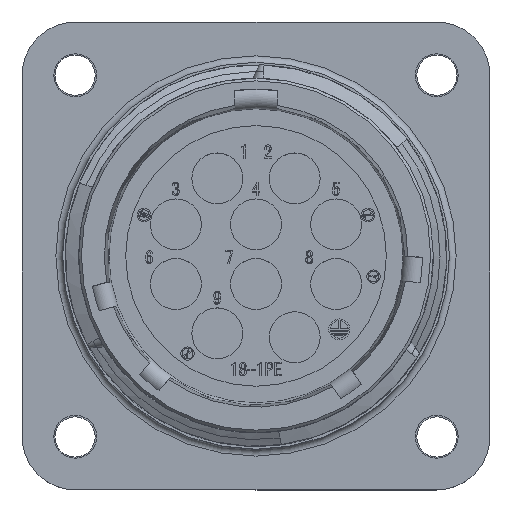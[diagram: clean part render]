
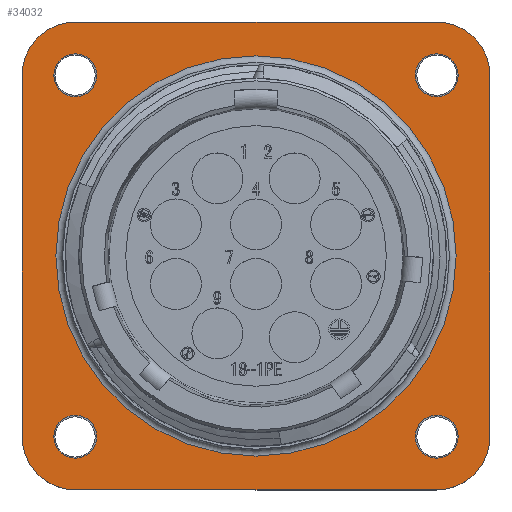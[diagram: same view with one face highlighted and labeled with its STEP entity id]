
A CAD part, top view. The second image highlights one B-rep face of the part: STEP entity #34032.
In plain terms, the highlighted planar face has unit normal (0, 0, 1).
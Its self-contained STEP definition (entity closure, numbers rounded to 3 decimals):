
#567 = VECTOR ( 'NONE', #8235, 1000. ) ;
#592 = DIRECTION ( 'NONE',  ( 0., 0., -1. ) ) ;
#884 = EDGE_CURVE ( 'NONE', #29606, #39198, #38376, .T. ) ;
#904 = CIRCLE ( 'NONE', #35562, 4. ) ;
#2448 = EDGE_CURVE ( 'NONE', #39198, #24885, #32546, .T. ) ;
#2581 = DIRECTION ( 'NONE',  ( 1., 0., 0. ) ) ;
#2787 = FACE_BOUND ( 'NONE', #35160, .T. ) ;
#2815 = CIRCLE ( 'NONE', #10098, 4. ) ;
#2872 = DIRECTION ( 'NONE',  ( 1., 0., 0. ) ) ;
#3343 = DIRECTION ( 'NONE',  ( 0., 0., -1. ) ) ;
#3821 = EDGE_CURVE ( 'NONE', #26107, #26107, #12783, .T. ) ;
#3840 = ORIENTED_EDGE ( 'NONE', *, *, #33449, .F. ) ;
#4151 = ORIENTED_EDGE ( 'NONE', *, *, #18216, .T. ) ;
#4255 = FACE_BOUND ( 'NONE', #9650, .T. ) ;
#4853 = CARTESIAN_POINT ( 'NONE',  ( 0., 0., -19.9 ) ) ;
#5148 = ORIENTED_EDGE ( 'NONE', *, *, #3821, .T. ) ;
#5366 = CARTESIAN_POINT ( 'NONE',  ( -14.935, 0., -19.9 ) ) ;
#5723 = DIRECTION ( 'NONE',  ( -1., 0., 0. ) ) ;
#5938 = DIRECTION ( 'NONE',  ( 0., 0., -1. ) ) ;
#6218 = ORIENTED_EDGE ( 'NONE', *, *, #2448, .F. ) ;
#6529 = AXIS2_PLACEMENT_3D ( 'NONE', #29470, #29891, #14156 ) ;
#6592 = CARTESIAN_POINT ( 'NONE',  ( -13.46, 17.46, -19.9 ) ) ;
#6643 = FACE_BOUND ( 'NONE', #10382, .T. ) ;
#7272 = DIRECTION ( 'NONE',  ( -1., 0., 0. ) ) ;
#7343 = AXIS2_PLACEMENT_3D ( 'NONE', #36872, #5938, #27465 ) ;
#7519 = EDGE_CURVE ( 'NONE', #26334, #24393, #27141, .T. ) ;
#7660 = VERTEX_POINT ( 'NONE', #28254 ) ;
#7911 = CARTESIAN_POINT ( 'NONE',  ( -17.46, 13.46, -19.9 ) ) ;
#8235 = DIRECTION ( 'NONE',  ( 0., -1., 0. ) ) ;
#8299 = DIRECTION ( 'NONE',  ( 0., 0., -1. ) ) ;
#8631 = AXIS2_PLACEMENT_3D ( 'NONE', #22879, #38591, #26077 ) ;
#9038 = VERTEX_POINT ( 'NONE', #23919 ) ;
#9403 = CARTESIAN_POINT ( 'NONE',  ( 13.46, 13.46, -19.9 ) ) ;
#9617 = DIRECTION ( 'NONE',  ( 1., 0., 0. ) ) ;
#9650 = EDGE_LOOP ( 'NONE', ( #4151 ) ) ;
#9746 = CARTESIAN_POINT ( 'NONE',  ( 13.485, -13.485, -19.9 ) ) ;
#9801 = CARTESIAN_POINT ( 'NONE',  ( -13.46, -13.46, -19.9 ) ) ;
#10067 = ORIENTED_EDGE ( 'NONE', *, *, #884, .F. ) ;
#10098 = AXIS2_PLACEMENT_3D ( 'NONE', #9801, #28077, #31163 ) ;
#10162 = AXIS2_PLACEMENT_3D ( 'NONE', #4853, #38597, #7272 ) ;
#10382 = EDGE_LOOP ( 'NONE', ( #36135 ) ) ;
#10893 = CARTESIAN_POINT ( 'NONE',  ( -15.085, -13.485, -19.9 ) ) ;
#11336 = VECTOR ( 'NONE', #29395, 1000. ) ;
#11757 = CARTESIAN_POINT ( 'NONE',  ( 13.46, 17.46, -19.9 ) ) ;
#12381 = DIRECTION ( 'NONE',  ( 0., 0., -1. ) ) ;
#12783 = CIRCLE ( 'NONE', #7343, 1.6 ) ;
#12924 = CIRCLE ( 'NONE', #15752, 1.6 ) ;
#13363 = CARTESIAN_POINT ( 'NONE',  ( -17.46, -13.46, -19.9 ) ) ;
#13405 = CIRCLE ( 'NONE', #8631, 4. ) ;
#14156 = DIRECTION ( 'NONE',  ( 1., 0., 0. ) ) ;
#14673 = EDGE_LOOP ( 'NONE', ( #26425 ) ) ;
#14818 = CARTESIAN_POINT ( 'NONE',  ( 17.46, -13.46, -19.9 ) ) ;
#14847 = FACE_BOUND ( 'NONE', #29514, .T. ) ;
#15219 = ORIENTED_EDGE ( 'NONE', *, *, #33389, .F. ) ;
#15220 = CARTESIAN_POINT ( 'NONE',  ( 13.485, 13.485, -19.9 ) ) ;
#15752 = AXIS2_PLACEMENT_3D ( 'NONE', #9746, #592, #9617 ) ;
#16621 = LINE ( 'NONE', #7911, #11336 ) ;
#17082 = EDGE_CURVE ( 'NONE', #7660, #26334, #13405, .T. ) ;
#18145 = CIRCLE ( 'NONE', #10162, 14.935 ) ;
#18216 = EDGE_CURVE ( 'NONE', #23370, #23370, #18145, .T. ) ;
#18605 = CARTESIAN_POINT ( 'NONE',  ( 17.46, 13.46, -19.9 ) ) ;
#18958 = VECTOR ( 'NONE', #2581, 1000. ) ;
#19855 = CARTESIAN_POINT ( 'NONE',  ( -13.46, -17.46, -19.9 ) ) ;
#20749 = ORIENTED_EDGE ( 'NONE', *, *, #38452, .F. ) ;
#20947 = VERTEX_POINT ( 'NONE', #18605 ) ;
#21018 = VERTEX_POINT ( 'NONE', #13363 ) ;
#21082 = FACE_BOUND ( 'NONE', #14673, .T. ) ;
#21300 = CARTESIAN_POINT ( 'NONE',  ( -13.485, 13.485, -19.9 ) ) ;
#22208 = CIRCLE ( 'NONE', #35040, 1.6 ) ;
#22879 = CARTESIAN_POINT ( 'NONE',  ( -13.46, 13.46, -19.9 ) ) ;
#23278 = AXIS2_PLACEMENT_3D ( 'NONE', #15220, #3343, #27840 ) ;
#23370 = VERTEX_POINT ( 'NONE', #5366 ) ;
#23752 = AXIS2_PLACEMENT_3D ( 'NONE', #30060, #8299, #5723 ) ;
#23919 = CARTESIAN_POINT ( 'NONE',  ( -11.885, 13.485, -19.9 ) ) ;
#24393 = VERTEX_POINT ( 'NONE', #32557 ) ;
#24400 = DIRECTION ( 'NONE',  ( 0., 0., -1. ) ) ;
#24560 = EDGE_CURVE ( 'NONE', #20947, #29606, #35204, .T. ) ;
#24885 = VERTEX_POINT ( 'NONE', #19855 ) ;
#26077 = DIRECTION ( 'NONE',  ( -1., 0., 0. ) ) ;
#26107 = VERTEX_POINT ( 'NONE', #10893 ) ;
#26334 = VERTEX_POINT ( 'NONE', #6592 ) ;
#26349 = ORIENTED_EDGE ( 'NONE', *, *, #30621, .T. ) ;
#26425 = ORIENTED_EDGE ( 'NONE', *, *, #34155, .T. ) ;
#26752 = EDGE_LOOP ( 'NONE', ( #26773, #20749, #3840, #6218, #10067, #36816, #15219, #33647 ) ) ;
#26773 = ORIENTED_EDGE ( 'NONE', *, *, #17082, .F. ) ;
#27141 = LINE ( 'NONE', #11757, #18958 ) ;
#27465 = DIRECTION ( 'NONE',  ( -1., 0., 0. ) ) ;
#27471 = CARTESIAN_POINT ( 'NONE',  ( 13.46, -17.46, -19.9 ) ) ;
#27840 = DIRECTION ( 'NONE',  ( -1., 0., 0. ) ) ;
#28077 = DIRECTION ( 'NONE',  ( 0., 0., -1. ) ) ;
#28254 = CARTESIAN_POINT ( 'NONE',  ( -17.46, 13.46, -19.9 ) ) ;
#29395 = DIRECTION ( 'NONE',  ( 0., 1., 0. ) ) ;
#29470 = CARTESIAN_POINT ( 'NONE',  ( 13.46, -13.46, -19.9 ) ) ;
#29514 = EDGE_LOOP ( 'NONE', ( #26349 ) ) ;
#29606 = VERTEX_POINT ( 'NONE', #14818 ) ;
#29793 = PLANE ( 'NONE',  #23752 ) ;
#29891 = DIRECTION ( 'NONE',  ( 0., 0., -1. ) ) ;
#30060 = CARTESIAN_POINT ( 'NONE',  ( -13.46, 13.46, -19.9 ) ) ;
#30146 = CIRCLE ( 'NONE', #23278, 1.6 ) ;
#30621 = EDGE_CURVE ( 'NONE', #9038, #9038, #22208, .T. ) ;
#30912 = CARTESIAN_POINT ( 'NONE',  ( 13.46, -17.46, -19.9 ) ) ;
#31163 = DIRECTION ( 'NONE',  ( 1., 0., 0. ) ) ;
#32546 = LINE ( 'NONE', #30912, #34493 ) ;
#32557 = CARTESIAN_POINT ( 'NONE',  ( 13.46, 17.46, -19.9 ) ) ;
#33082 = VERTEX_POINT ( 'NONE', #33455 ) ;
#33127 = FACE_OUTER_BOUND ( 'NONE', #26752, .T. ) ;
#33389 = EDGE_CURVE ( 'NONE', #24393, #20947, #904, .T. ) ;
#33449 = EDGE_CURVE ( 'NONE', #24885, #21018, #2815, .T. ) ;
#33455 = CARTESIAN_POINT ( 'NONE',  ( 15.085, -13.485, -19.9 ) ) ;
#33647 = ORIENTED_EDGE ( 'NONE', *, *, #7519, .F. ) ;
#33870 = DIRECTION ( 'NONE',  ( 1., 0., 0. ) ) ;
#34032 = ADVANCED_FACE ( 'NONE', ( #4255, #21082, #14847, #33127, #6643, #2787 ), #29793, .F. ) ;
#34155 = EDGE_CURVE ( 'NONE', #33082, #33082, #12924, .T. ) ;
#34493 = VECTOR ( 'NONE', #36831, 1000. ) ;
#35040 = AXIS2_PLACEMENT_3D ( 'NONE', #21300, #24400, #2872 ) ;
#35160 = EDGE_LOOP ( 'NONE', ( #5148 ) ) ;
#35204 = LINE ( 'NONE', #36045, #567 ) ;
#35562 = AXIS2_PLACEMENT_3D ( 'NONE', #9403, #12381, #33870 ) ;
#36045 = CARTESIAN_POINT ( 'NONE',  ( 17.46, 13.46, -19.9 ) ) ;
#36135 = ORIENTED_EDGE ( 'NONE', *, *, #37106, .T. ) ;
#36541 = CARTESIAN_POINT ( 'NONE',  ( 11.885, 13.485, -19.9 ) ) ;
#36816 = ORIENTED_EDGE ( 'NONE', *, *, #24560, .F. ) ;
#36831 = DIRECTION ( 'NONE',  ( -1., 0., 0. ) ) ;
#36872 = CARTESIAN_POINT ( 'NONE',  ( -13.485, -13.485, -19.9 ) ) ;
#37106 = EDGE_CURVE ( 'NONE', #37889, #37889, #30146, .T. ) ;
#37889 = VERTEX_POINT ( 'NONE', #36541 ) ;
#38376 = CIRCLE ( 'NONE', #6529, 4. ) ;
#38452 = EDGE_CURVE ( 'NONE', #21018, #7660, #16621, .T. ) ;
#38591 = DIRECTION ( 'NONE',  ( 0., 0., -1. ) ) ;
#38597 = DIRECTION ( 'NONE',  ( 0., 0., -1. ) ) ;
#39198 = VERTEX_POINT ( 'NONE', #27471 ) ;
